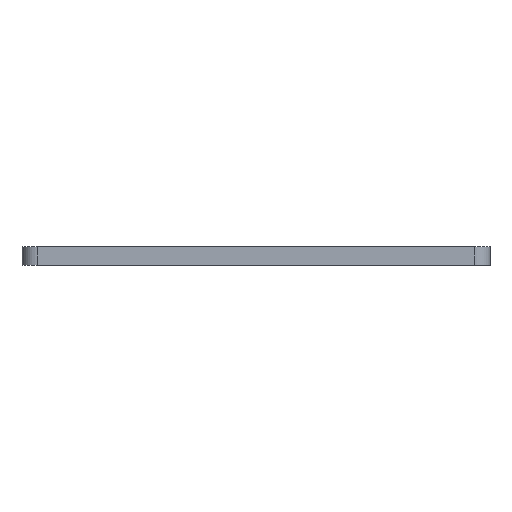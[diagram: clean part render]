
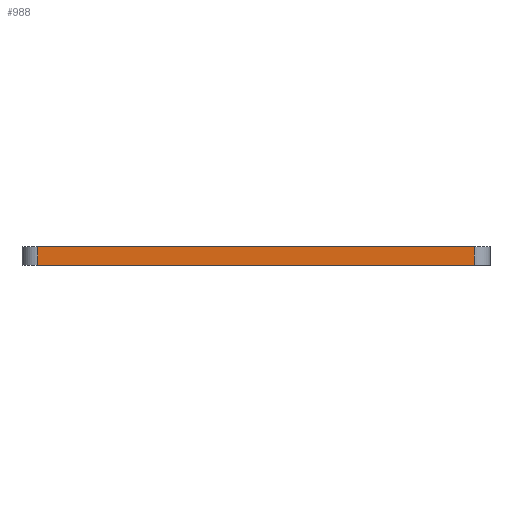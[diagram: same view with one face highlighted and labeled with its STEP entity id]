
A CAD part, left-side view. The second image highlights one B-rep face of the part: STEP entity #988.
In plain terms, the highlighted planar face has unit normal (-1, 0, 0).
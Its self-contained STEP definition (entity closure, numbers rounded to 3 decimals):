
#264 = VERTEX_POINT('',#265);
#265 = CARTESIAN_POINT('',(-75.,70.,0.));
#272 = EDGE_CURVE('',#264,#273,#275,.T.);
#273 = VERTEX_POINT('',#274);
#274 = CARTESIAN_POINT('',(-75.,-70.,0.));
#275 = LINE('',#276,#277);
#276 = CARTESIAN_POINT('',(-75.,70.,0.));
#277 = VECTOR('',#278,1.);
#278 = DIRECTION('',(0.,-1.,0.));
#618 = VERTEX_POINT('',#619);
#619 = CARTESIAN_POINT('',(-75.,70.,6.));
#626 = EDGE_CURVE('',#618,#627,#629,.T.);
#627 = VERTEX_POINT('',#628);
#628 = CARTESIAN_POINT('',(-75.,-70.,6.));
#629 = LINE('',#630,#631);
#630 = CARTESIAN_POINT('',(-75.,70.,6.));
#631 = VECTOR('',#632,1.);
#632 = DIRECTION('',(0.,-1.,0.));
#910 = EDGE_CURVE('',#273,#627,#911,.T.);
#911 = LINE('',#912,#913);
#912 = CARTESIAN_POINT('',(-75.,-70.,0.));
#913 = VECTOR('',#914,1.);
#914 = DIRECTION('',(0.,0.,1.));
#988 = ADVANCED_FACE('',(#989),#1000,.F.);
#989 = FACE_BOUND('',#990,.F.);
#990 = EDGE_LOOP('',(#991,#997,#998,#999));
#991 = ORIENTED_EDGE('',*,*,#992,.T.);
#992 = EDGE_CURVE('',#264,#618,#993,.T.);
#993 = LINE('',#994,#995);
#994 = CARTESIAN_POINT('',(-75.,70.,0.));
#995 = VECTOR('',#996,1.);
#996 = DIRECTION('',(0.,0.,1.));
#997 = ORIENTED_EDGE('',*,*,#626,.T.);
#998 = ORIENTED_EDGE('',*,*,#910,.F.);
#999 = ORIENTED_EDGE('',*,*,#272,.F.);
#1000 = PLANE('',#1001);
#1001 = AXIS2_PLACEMENT_3D('',#1002,#1003,#1004);
#1002 = CARTESIAN_POINT('',(-75.,70.,0.));
#1003 = DIRECTION('',(1.,0.,0.));
#1004 = DIRECTION('',(0.,-1.,0.));
